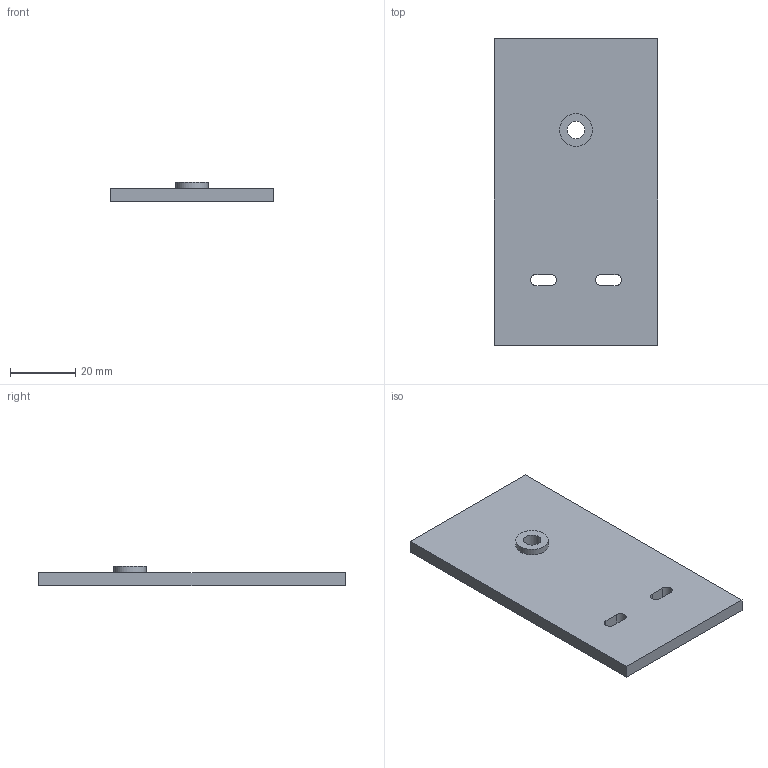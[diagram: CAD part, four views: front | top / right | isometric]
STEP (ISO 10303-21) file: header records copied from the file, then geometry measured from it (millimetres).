
FILE_DESCRIPTION(('Open CASCADE Model'),'2;1');
FILE_NAME('Open CASCADE Shape Model','2026-10-21T12:04:46',('Author'),( 'Open CASCADE'),'Open CASCADE STEP processor 7.9','Open CASCADE 7.9' ,'Unknown');
FILE_SCHEMA(('AUTOMOTIVE_DESIGN { 1 0 10303 214 1 1 1 1 }'));
Length unit declared in the file: millimetre
Products named in the file (1): Open CASCADE STEP translator 7.9 7
Bounding box: 50 x 94 x 6 mm (x, y, z)
Volume: 18627 mm3; surface area: 10730.8 mm2
Topology: 1 solids, 1 shells, 17 faces, 42 edges, 28 vertices
Faces by surface type: plane 11, cylinder 6
Full cylindrical faces by diameter (mm): 5.3 x1, 10 x1
Entity records: 1106 total; most frequent: CARTESIAN_POINT 232, DIRECTION 164, LINE 102, VECTOR 102, ORIENTED_EDGE 84, PCURVE 84, DEFINITIONAL_REPRESENTATION 84, EDGE_CURVE 42
